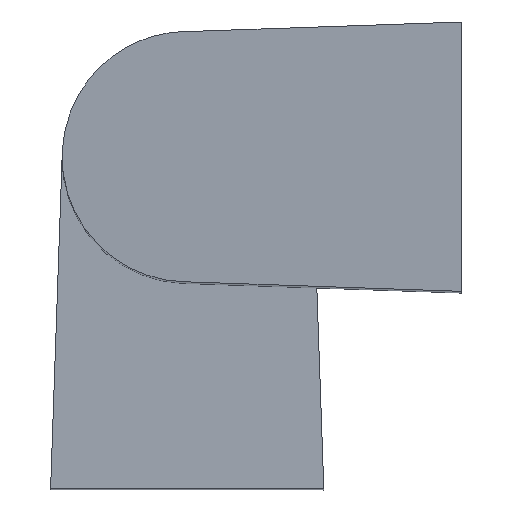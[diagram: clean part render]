
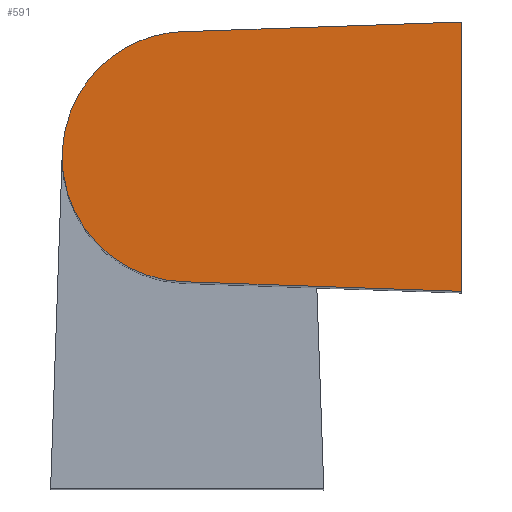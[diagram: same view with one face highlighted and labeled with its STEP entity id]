
A CAD part, top view. The second image highlights one B-rep face of the part: STEP entity #591.
In plain terms, the highlighted planar face has unit normal (-0.059, 0.002, 0.998) as drawn and (-0.002, 0.059, -0.998) by its records, which use the part's own axes.
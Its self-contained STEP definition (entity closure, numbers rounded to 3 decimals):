
#548 = EDGE_CURVE ( 'NONE', #549, #550, #1969, .T. ) ;
#549 = VERTEX_POINT ( 'NONE', #1965 ) ;
#550 = VERTEX_POINT ( 'NONE', #1964 ) ;
#591 = ADVANCED_FACE ( 'NONE', ( #2080 ), #2079, .F. ) ;
#592 = EDGE_LOOP ( 'NONE', ( #593, #594, #645, #646 ) ) ;
#593 = ORIENTED_EDGE ( 'NONE', *, *, #621, .T. ) ;
#594 = ORIENTED_EDGE ( 'NONE', *, *, #644, .T. ) ;
#601 = EDGE_CURVE ( 'NONE', #622, #549, #2064, .T. ) ;
#619 = VERTEX_POINT ( 'NONE', #2146 ) ;
#621 = EDGE_CURVE ( 'NONE', #622, #619, #2144, .T. ) ;
#622 = VERTEX_POINT ( 'NONE', #2140 ) ;
#644 = EDGE_CURVE ( 'NONE', #619, #550, #2120, .T. ) ;
#645 = ORIENTED_EDGE ( 'NONE', *, *, #548, .F. ) ;
#646 = ORIENTED_EDGE ( 'NONE', *, *, #601, .F. ) ;
#1964 = CARTESIAN_POINT ( 'NONE',  ( 0.092, 2.647, 0.184 ) ) ;
#1965 = CARTESIAN_POINT ( 'NONE',  ( 0.552, 15.902, 0.971 ) ) ;
#1966 = DIRECTION ( 'NONE',  ( -0.035, -0.998, -0.059 ) ) ;
#1967 = VECTOR ( 'NONE', #1966, 1000. ) ;
#1968 = CARTESIAN_POINT ( 'NONE',  ( 0.648, 18.651, 1.134 ) ) ;
#1969 = LINE ( 'NONE', #1968, #1967 ) ;
#2060 = CARTESIAN_POINT ( 'NONE',  ( 0.552, 15.902, 0.971 ) ) ;
#2061 = CARTESIAN_POINT ( 'NONE',  ( 0.938, 27.019, 1.63 ) ) ;
#2062 = CARTESIAN_POINT ( 'NONE',  ( 12.062, 27.019, 1.608 ) ) ;
#2063 = CARTESIAN_POINT ( 'NONE',  ( 12.448, 15.902, 0.946 ) ) ;
#2064 =( BOUNDED_CURVE ( )  B_SPLINE_CURVE ( 3, ( #2063, #2062, #2061, #2060 ),
 .UNSPECIFIED., .F., .T. ) 
 B_SPLINE_CURVE_WITH_KNOTS ( ( 4, 4 ),
 ( 1.571, 4.643 ),
 .UNSPECIFIED. ) 
 CURVE ( )  GEOMETRIC_REPRESENTATION_ITEM ( )  RATIONAL_B_SPLINE_CURVE ( ( 1., 0.356, 0.356, 1. ) ) 
 REPRESENTATION_ITEM ( '' )  );
#2075 = DIRECTION ( 'NONE',  ( 0., -0.998, -0.059 ) ) ;
#2076 = DIRECTION ( 'NONE',  ( 0.002, -0.059, 0.998 ) ) ;
#2077 = CARTESIAN_POINT ( 'NONE',  ( 0.016, -0.451, 0. ) ) ;
#2078 = AXIS2_PLACEMENT_3D ( 'NONE', #2077, #2076, #2075 ) ;
#2079 = PLANE ( 'NONE',  #2078 ) ;
#2080 = FACE_OUTER_BOUND ( 'NONE', #592, .T. ) ;
#2117 = DIRECTION ( 'NONE',  ( -1., 0., 0.002 ) ) ;
#2118 = VECTOR ( 'NONE', #2117, 1000. ) ;
#2119 = CARTESIAN_POINT ( 'NONE',  ( 0.016, 2.647, 0.184 ) ) ;
#2120 = LINE ( 'NONE', #2119, #2118 ) ;
#2140 = CARTESIAN_POINT ( 'NONE',  ( 12.448, 15.902, 0.946 ) ) ;
#2141 = DIRECTION ( 'NONE',  ( 0.035, -0.998, -0.059 ) ) ;
#2142 = VECTOR ( 'NONE', #2141, 1000. ) ;
#2143 = CARTESIAN_POINT ( 'NONE',  ( 13., 0., 0. ) ) ;
#2144 = LINE ( 'NONE', #2143, #2142 ) ;
#2146 = CARTESIAN_POINT ( 'NONE',  ( 12.908, 2.647, 0.157 ) ) ;
